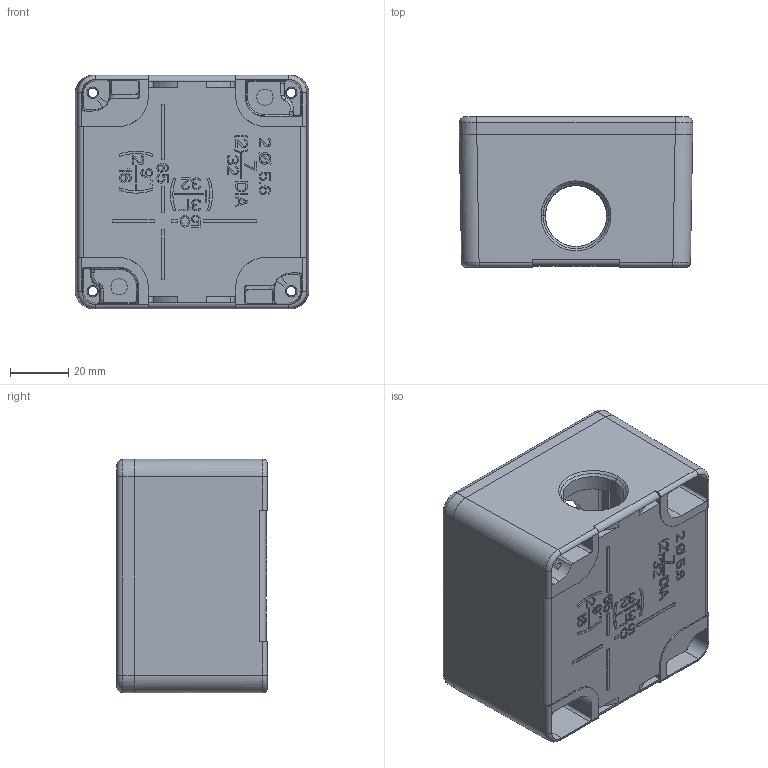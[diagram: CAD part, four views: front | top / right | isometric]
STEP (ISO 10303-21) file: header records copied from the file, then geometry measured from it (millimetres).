
FILE_DESCRIPTION((''),'2;1');
FILE_NAME('XAPM_ASM','2017-01-04T',('SESA46431'),('Schneider-Electric'),'PRO/ENGINEER BY PARAMETRIC TECHNOLOGY CORPORATION, 2015440','PRO/ENGINEER BY PARAMETRIC TECHNOLOGY CORPORATION, 2015440','');
FILE_SCHEMA(('CONFIG_CONTROL_DESIGN'));
Products named in the file (3): XAPM_BASE; XAPM_COVER; XAPM_ASM
Assembly tree (2 placements, depth 2):
  XAPM_ASM
    XAPM_BASE
    XAPM_COVER
Bounding box: 80 x 51.5 x 80 mm (x, y, z)
Volume: 79586.1 mm3; surface area: 66229.7 mm2
Topology: 2 solids, 11 shells, 2132 faces, 5880 edges, 3861 vertices
Faces by surface type: plane 1593, cylinder 244, extrusion 118, torus 76, cone 54, bspline 43, sphere 4
Entity records: 71407 total; most frequent: CARTESIAN_POINT 17535, ORIENTED_EDGE 11716, DIRECTION 10072, EDGE_CURVE 5876, VECTOR 4866, LINE 4748, VERTEX_POINT 3861, AXIS2_PLACEMENT_3D 2603
